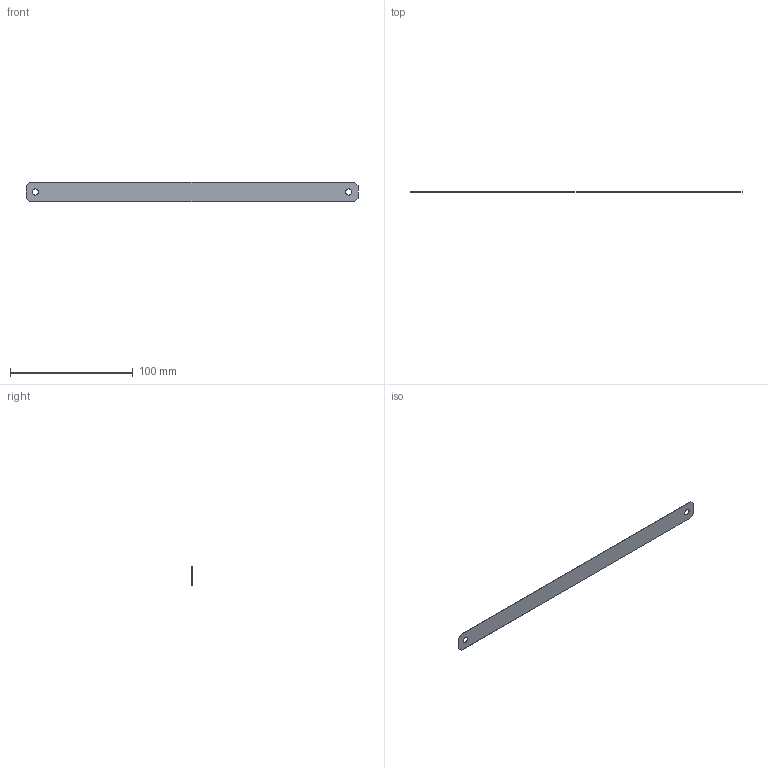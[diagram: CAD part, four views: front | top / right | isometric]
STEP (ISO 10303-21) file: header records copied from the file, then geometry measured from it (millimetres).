
FILE_DESCRIPTION (( 'STEP AP203' ), '1' );
FILE_NAME ('N608841_0_Sicherungsband.STEP', '2019-05-27T06:16:31', ( '' ), ( '' ), 'SwSTEP 2.0', 'SolidWorks 2017', '' );
FILE_SCHEMA (( 'CONFIG_CONTROL_DESIGN' ));
Length unit declared in the file: millimetre
Products named in the file (1): N608841_0_Sicherungsband
Bounding box: 270 x 0.4 x 16 mm (x, y, z)
Volume: 1705.1 mm3; surface area: 8764 mm2
Topology: 1 solids, 1 shells, 14 faces, 36 edges, 24 vertices
Faces by surface type: plane 10, cylinder 4
Entity records: 513 total; most frequent: CARTESIAN_POINT 75, DIRECTION 74, ORIENTED_EDGE 72, EDGE_CURVE 36, VECTOR 28, LINE 28, VERTEX_POINT 24, AXIS2_PLACEMENT_3D 23
